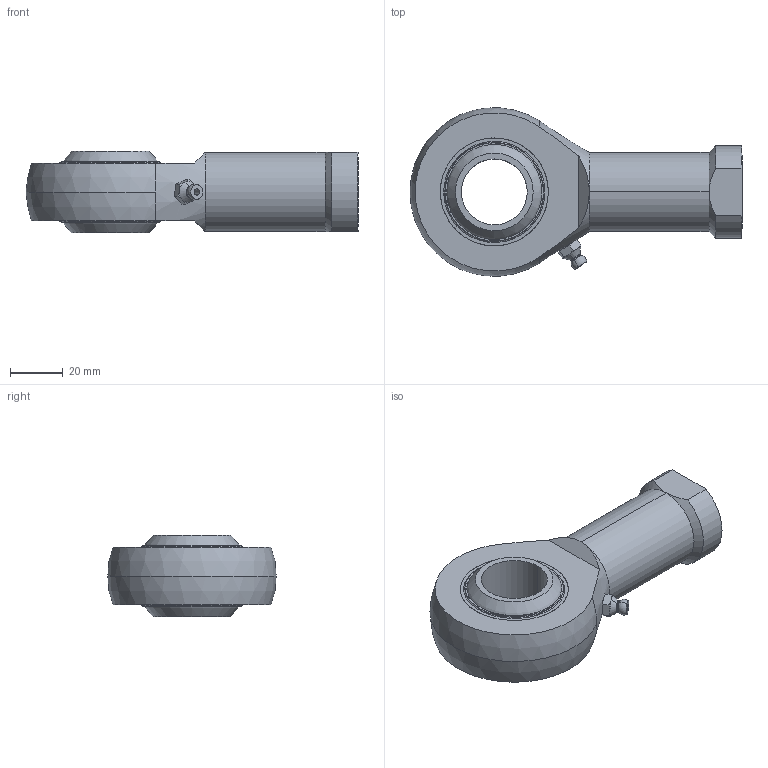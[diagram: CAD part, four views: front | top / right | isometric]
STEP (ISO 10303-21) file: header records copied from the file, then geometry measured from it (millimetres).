
FILE_DESCRIPTION (( 'STEP AP203' ), '1' );
FILE_NAME ('65760.W0125.step', '2014-02-11T16:43:29', ( 'User' ), ( '' ), 'SwSTEP 2.0', 'SolidWorks 2009', '' );
FILE_SCHEMA (( 'CONFIG_CONTROL_DESIGN' ));
Length unit declared in the file: millimetre
Products named in the file (5): 65760.W0125; Part1_65760.W0125; Part2_65760.W0125; Part3_M6; Part4_65760.W0125
Assembly tree (5 placements, depth 2):
  65760.W0125
    Part4_65760.W0125  x2
    Part3_M6
    Part2_65760.W0125
    Part1_65760.W0125
Bounding box: 126 x 63.82 x 31 mm (x, y, z)
Volume: 83305.5 mm3; surface area: 34889.4 mm2
Topology: 46 solids, 46 shells, 183 faces, 522 edges, 351 vertices
Faces by surface type: sphere 98, plane 27, torus 22, cylinder 20, cone 16
Entity records: 4805 total; most frequent: CARTESIAN_POINT 913, DIRECTION 812, ORIENTED_EDGE 554, AXIS2_PLACEMENT_3D 385, EDGE_CURVE 277, CIRCLE 207, VERTEX_POINT 206, EDGE_LOOP 189
